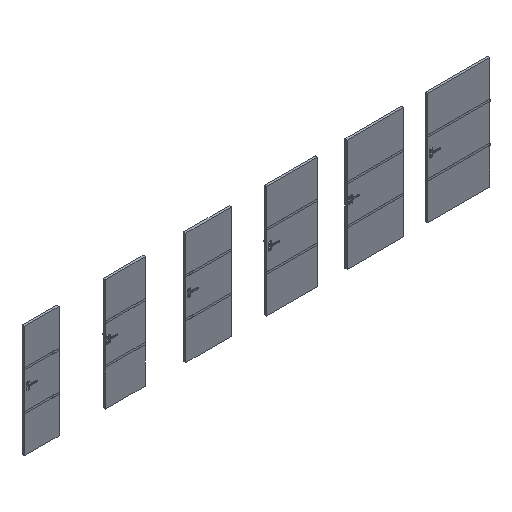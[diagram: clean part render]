
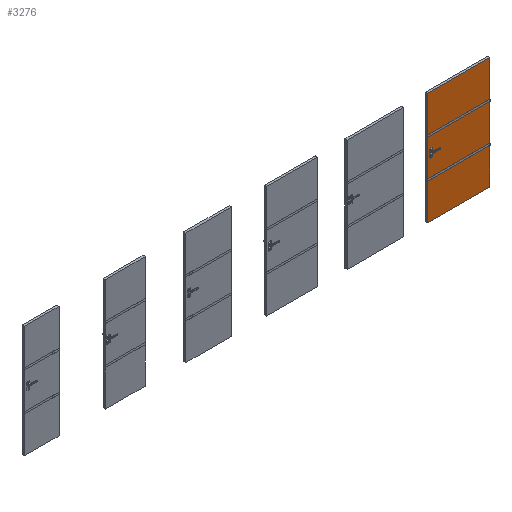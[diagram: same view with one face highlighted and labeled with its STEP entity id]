
A CAD part, isometric view. The second image highlights one B-rep face of the part: STEP entity #3276.
In plain terms, the highlighted planar face has unit normal (0, -1, 0).
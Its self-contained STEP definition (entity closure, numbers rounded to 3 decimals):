
#3276=ADVANCED_FACE('',(#4974),#3996,.F.);
#3996=PLANE('',#19873);
#4974=FACE_OUTER_BOUND('',#6198,.T.);
#6198=EDGE_LOOP('',(#10374,#10375,#10376,#10377));
#10374=ORIENTED_EDGE('',*,*,#15036,.T.);
#10375=ORIENTED_EDGE('',*,*,#15037,.F.);
#10376=ORIENTED_EDGE('',*,*,#15038,.F.);
#10377=ORIENTED_EDGE('',*,*,#15039,.T.);
#12740=VERTEX_POINT('',#35503);
#12741=VERTEX_POINT('',#35504);
#12742=VERTEX_POINT('',#35506);
#12743=VERTEX_POINT('',#35508);
#15036=EDGE_CURVE('',#12740,#12741,#16770,.T.);
#15037=EDGE_CURVE('',#12742,#12741,#16771,.T.);
#15038=EDGE_CURVE('',#12743,#12742,#16772,.T.);
#15039=EDGE_CURVE('',#12743,#12740,#16773,.T.);
#16770=LINE('',#35502,#18234);
#16771=LINE('',#35505,#18235);
#16772=LINE('',#35507,#18236);
#16773=LINE('',#35509,#18237);
#18234=VECTOR('',#24021,1.);
#18235=VECTOR('',#24022,1.);
#18236=VECTOR('',#24023,1.);
#18237=VECTOR('',#24024,1.);
#19873=AXIS2_PLACEMENT_3D('',#35510,#24025,#24026);
#24021=DIRECTION('',(1.,0.,0.));
#24022=DIRECTION('',(0.,0.,-1.));
#24023=DIRECTION('',(1.,0.,0.));
#24024=DIRECTION('',(0.,0.,-1.));
#24025=DIRECTION('',(0.,1.,0.));
#24026=DIRECTION('',(-1.,0.,0.));
#35502=CARTESIAN_POINT('',(7191.,-39.3,0.));
#35503=CARTESIAN_POINT('',(6941.,-39.3,0.));
#35504=CARTESIAN_POINT('',(8059.,-39.3,0.));
#35505=CARTESIAN_POINT('',(8059.,-39.3,2017.));
#35506=CARTESIAN_POINT('',(8059.,-39.3,2017.));
#35507=CARTESIAN_POINT('',(7191.,-39.3,2017.));
#35508=CARTESIAN_POINT('',(6941.,-39.3,2017.));
#35509=CARTESIAN_POINT('',(6941.,-39.3,2017.));
#35510=CARTESIAN_POINT('',(7191.,-39.3,2017.));
